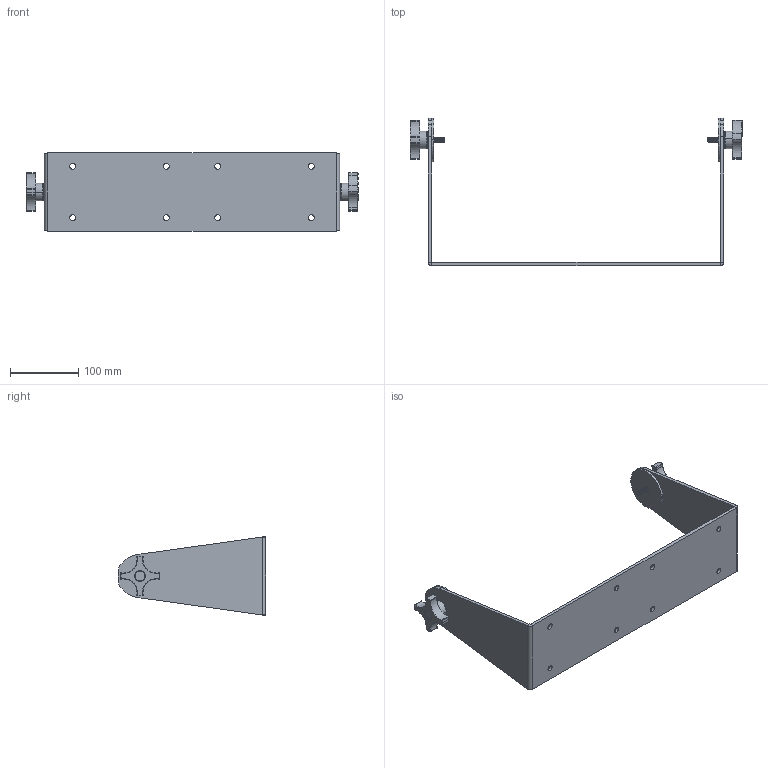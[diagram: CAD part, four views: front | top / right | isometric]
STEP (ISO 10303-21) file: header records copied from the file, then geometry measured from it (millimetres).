
FILE_DESCRIPTION (( 'STEP AP214' ), '1' );
FILE_NAME ('Wall Yoke for 15 and 17 inch Universal Mount Monitor, YW1517.STEP', '2017-07-18T14:09:45', ( '' ), ( '' ), 'SwSTEP 2.0', 'SolidWorks 2017', '' );
FILE_SCHEMA (( 'AUTOMOTIVE_DESIGN' ));
Length unit declared in the file: inch
Products named in the file (5): Bushing, 30501; Knob, 30053; Rubber Washer, 10177; All Wall Yoke Configurations, YWxx_YW1517; Wall Yoke for 15 and 17 inch Universal Mount Monitor, YW1517
Assembly tree (7 placements, depth 2):
  Wall Yoke for 15 and 17 inch Universal Mount Monitor, YW1517
    All Wall Yoke Configurations, YWxx_YW1517
    Rubber Washer, 10177  x2
    Knob, 30053  x2
    Bushing, 30501  x2
Bounding box: 486.46 x 215.9 x 114.3 mm (x, y, z)
Volume: 468314.2 mm3; surface area: 205903 mm2
Topology: 7 solids, 7 shells, 568 faces, 1228 edges, 666 vertices
Faces by surface type: cylinder 262, cone 176, torus 48, sphere 40, plane 38, bspline 4
Entity records: 10971 total; most frequent: CARTESIAN_POINT 4020, DIRECTION 1495, ORIENTED_EDGE 1340, EDGE_CURVE 670, AXIS2_PLACEMENT_3D 612, VERTEX_POINT 371, EDGE_LOOP 339, ADVANCED_FACE 311
